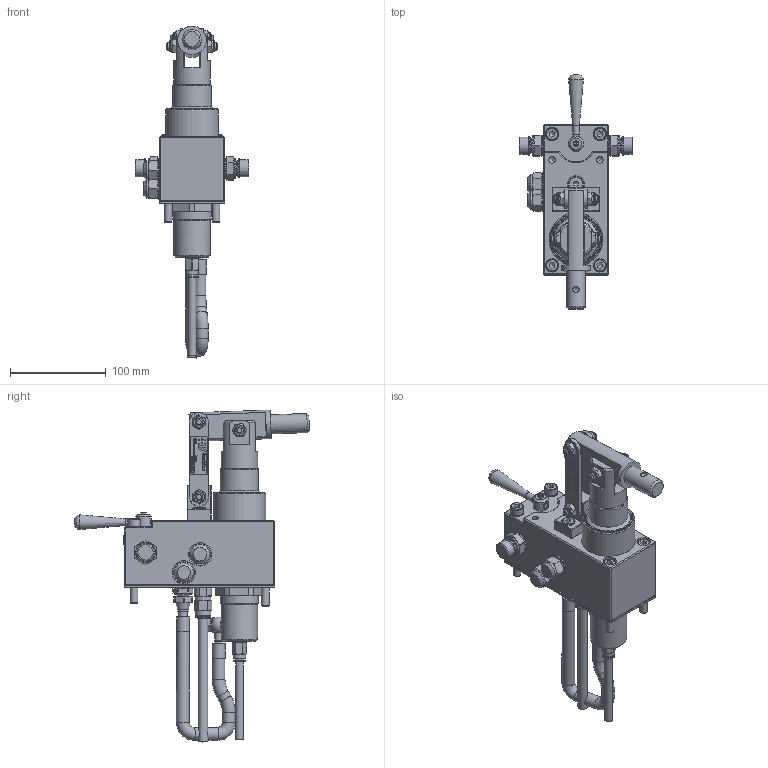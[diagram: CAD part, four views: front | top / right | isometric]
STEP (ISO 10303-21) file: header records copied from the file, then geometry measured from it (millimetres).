
FILE_DESCRIPTION((''),'2;1');
FILE_NAME('G:\HV_HYDRAULIC\AZIENDA_HV_HYDRAULIC\ARCHIVIO_DISEGNI\5_PRODOTTI_FINITI\1_POMPE_MANUALI\6070_PM2V_5-50\6070.6010_PM2V_5-50_a-d-byB_(cc)_(HV)\6070.6010.stp','2024-03-28T12:36:18',('christian.scardovi'),(''),'Autodesk Inventor 2013','Autodesk Inventor 2013','');
FILE_SCHEMA(('AUTOMOTIVE_DESIGN { 1 0 10303 214 1 1 1 1 }'));
Length unit declared in the file: millimetre
Products named in the file (1): 6070.6010
Bounding box: 119 x 245.06 x 346.66 mm (x, y, z)
Volume: 1052437.1 mm3; surface area: 176956.4 mm2
Topology: 1 solids, 1 shells, 1493 faces, 3693 edges, 2361 vertices
Faces by surface type: plane 808, cylinder 277, cone 202, bspline 159, torus 44, sphere 3
Full cylindrical faces by diameter (mm): 3 x1, 4 x5, 4.917 x2, 5 x10, 5.2 x1, 6 x5, 6.5 x1, 6.647 x2, 7 x1, 7.3 x1, 7.5 x2, 8 x18, 8.2 x1, 8.5 x1, 8.566 x3, 8.917 x2, 9 x3, 10 x4, 10.1 x1, 10.2 x1, 11.05 x6, 11.249 x1, 11.445 x1, 11.9 x1, 12 x4, 12.8 x1, 13 x12, 13.3 x5, 13.5 x2, 14 x10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
Entity records: 43938 total; most frequent: CARTESIAN_POINT 11039, ORIENTED_EDGE 6428, DIRECTION 5941, EDGE_CURVE 3214, VERTEX_POINT 2213, AXIS2_PLACEMENT_3D 2103, EDGE_LOOP 2015, VECTOR 1735
